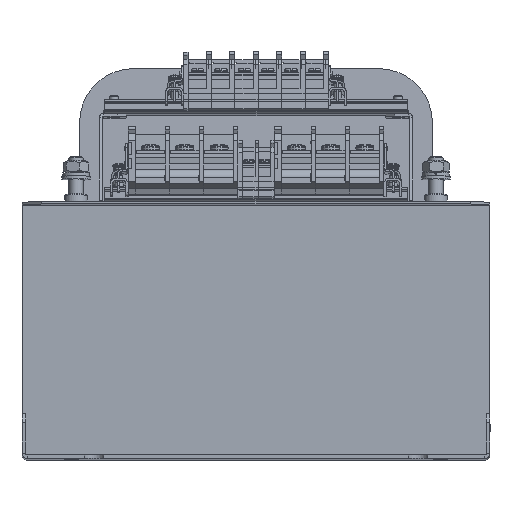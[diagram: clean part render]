
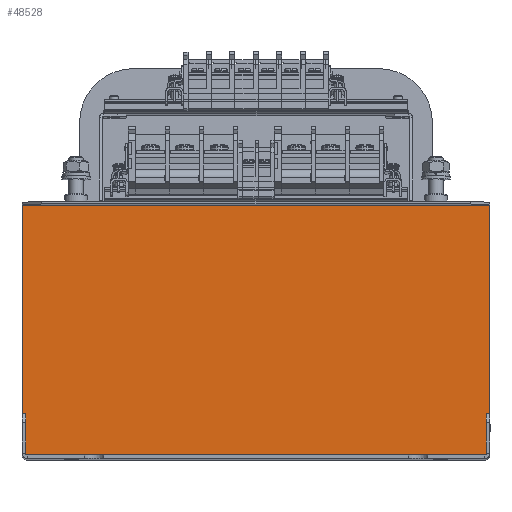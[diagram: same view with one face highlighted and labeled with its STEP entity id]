
A CAD part, top view. The second image highlights one B-rep face of the part: STEP entity #48528.
In plain terms, the highlighted planar face has unit normal (0, 0, 1).
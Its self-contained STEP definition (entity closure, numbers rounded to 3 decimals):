
#48335=CARTESIAN_POINT('',(-130.0,138.498,2.5));
#48336=VERTEX_POINT('',#48335);
#48343=CARTESIAN_POINT('',(130.0,138.498,2.5));
#48344=VERTEX_POINT('',#48343);
#48345=CARTESIAN_POINT('',(130.0,138.498,2.5));
#48346=DIRECTION('',(-1.0,0.0,0.0));
#48347=VECTOR('',#48346,260.0);
#48348=LINE('',#48345,#48347);
#48349=EDGE_CURVE('',#48344,#48336,#48348,.T.);
#48393=CARTESIAN_POINT('',(130.0,0.,2.5));
#48394=VERTEX_POINT('',#48393);
#48395=CARTESIAN_POINT('',(130.0,138.498,2.5));
#48396=DIRECTION('',(0.0,-1.0,0.0));
#48397=VECTOR('',#48396,138.498);
#48398=LINE('',#48395,#48397);
#48399=EDGE_CURVE('',#48344,#48394,#48398,.T.);
#48434=CARTESIAN_POINT('',(-130.0,0.,2.5));
#48435=VERTEX_POINT('',#48434);
#48442=CARTESIAN_POINT('',(-130.0,0.,2.5));
#48443=DIRECTION('',(0.0,1.0,0.0));
#48444=VECTOR('',#48443,138.498);
#48445=LINE('',#48442,#48444);
#48446=EDGE_CURVE('',#48435,#48336,#48445,.T.);
#48507=CARTESIAN_POINT('',(-130.0,0.,2.5));
#48508=DIRECTION('',(1.0,0.0,0.0));
#48509=VECTOR('',#48508,260.0);
#48510=LINE('',#48507,#48509);
#48511=EDGE_CURVE('',#48435,#48394,#48510,.T.);
#48517=CARTESIAN_POINT('',(0.0,140.,2.5));
#48518=DIRECTION('',(0.0,0.0,1.0));
#48519=DIRECTION('',(0.0,-1.0,0.0));
#48520=AXIS2_PLACEMENT_3D('',#48517,#48518,#48519);
#48521=PLANE('',#48520);
#48522=ORIENTED_EDGE('',*,*,#48349,.T.);
#48523=ORIENTED_EDGE('',*,*,#48446,.F.);
#48524=ORIENTED_EDGE('',*,*,#48511,.T.);
#48525=ORIENTED_EDGE('',*,*,#48399,.F.);
#48526=EDGE_LOOP('',(#48522,#48523,#48524,#48525));
#48527=FACE_OUTER_BOUND('',#48526,.T.);
#48528=ADVANCED_FACE('',(#48527),#48521,.T.);
